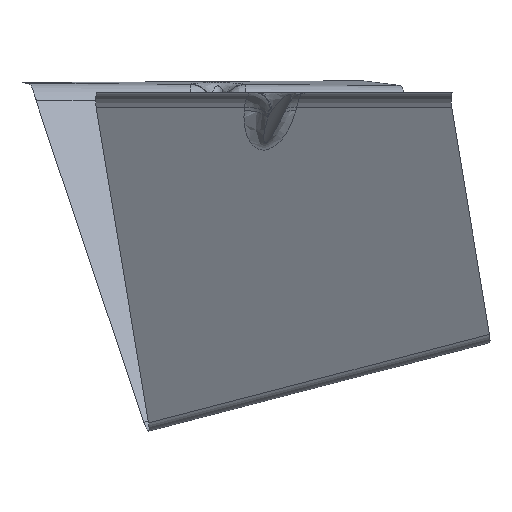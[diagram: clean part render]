
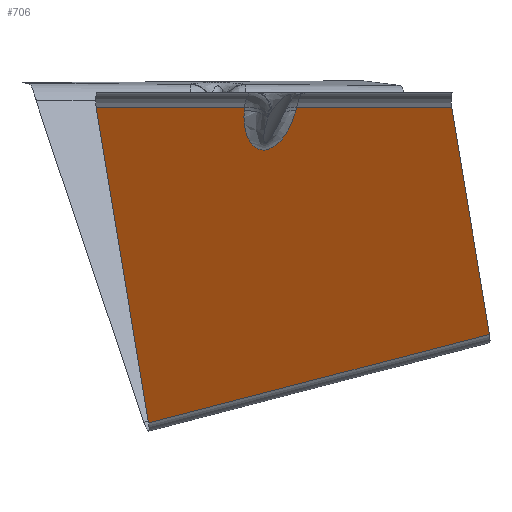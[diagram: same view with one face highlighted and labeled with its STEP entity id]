
A CAD part, left-side view. The second image highlights one B-rep face of the part: STEP entity #706.
In plain terms, the highlighted planar face has unit normal (-0.83, -0.249, -0.5).
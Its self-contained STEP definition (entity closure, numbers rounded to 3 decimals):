
#251=CARTESIAN_POINT('Vertex',(-100.162,8.569,-0.65)) ;
#274=CARTESIAN_POINT('Line Origine',(-79.158,11.037,-36.723)) ;
#278=CARTESIAN_POINT('Vertex',(-99.608,8.635,-1.602)) ;
#591=CARTESIAN_POINT('Control Point',(-95.25,-5.892,-1.602)) ;
#592=CARTESIAN_POINT('Control Point',(-95.022,-5.777,-2.036)) ;
#593=CARTESIAN_POINT('Control Point',(-94.798,-5.653,-2.47)) ;
#594=CARTESIAN_POINT('Control Point',(-94.577,-5.518,-2.904)) ;
#595=CARTESIAN_POINT('Control Point',(-93.952,-5.098,-4.15)) ;
#596=CARTESIAN_POINT('Control Point',(-93.359,-4.586,-5.388)) ;
#597=CARTESIAN_POINT('Control Point',(-92.99,-4.21,-6.187)) ;
#598=CARTESIAN_POINT('Control Point',(-92.489,-3.605,-7.32)) ;
#599=CARTESIAN_POINT('Control Point',(-92.042,-2.878,-8.423)) ;
#600=CARTESIAN_POINT('Control Point',(-91.914,-2.648,-8.751)) ;
#601=CARTESIAN_POINT('Control Point',(-91.688,-2.201,-9.347)) ;
#602=CARTESIAN_POINT('Control Point',(-91.488,-1.703,-9.927)) ;
#603=CARTESIAN_POINT('Control Point',(-91.403,-1.463,-10.189)) ;
#604=CARTESIAN_POINT('Control Point',(-91.21,-0.84,-10.819)) ;
#605=CARTESIAN_POINT('Control Point',(-91.071,-0.126,-11.404)) ;
#606=CARTESIAN_POINT('Control Point',(-91.013,0.339,-11.731)) ;
#607=CARTESIAN_POINT('Control Point',(-90.981,1.066,-12.147)) ;
#608=CARTESIAN_POINT('Control Point',(-91.056,1.888,-12.431)) ;
#609=CARTESIAN_POINT('Control Point',(-91.09,2.14,-12.501)) ;
#610=CARTESIAN_POINT('Control Point',(-91.172,2.606,-12.596)) ;
#611=CARTESIAN_POINT('Control Point',(-91.294,3.078,-12.629)) ;
#612=CARTESIAN_POINT('Control Point',(-91.356,3.287,-12.63)) ;
#613=CARTESIAN_POINT('Control Point',(-91.541,3.837,-12.596)) ;
#614=CARTESIAN_POINT('Control Point',(-91.77,4.35,-12.473)) ;
#615=CARTESIAN_POINT('Control Point',(-91.924,4.649,-12.365)) ;
#616=CARTESIAN_POINT('Control Point',(-92.371,5.413,-12.004)) ;
#617=CARTESIAN_POINT('Control Point',(-92.848,6.014,-11.512)) ;
#618=CARTESIAN_POINT('Control Point',(-93.154,6.345,-11.168)) ;
#619=CARTESIAN_POINT('Control Point',(-93.67,6.833,-10.556)) ;
#620=CARTESIAN_POINT('Control Point',(-94.18,7.222,-9.904)) ;
#621=CARTESIAN_POINT('Control Point',(-94.387,7.367,-9.632)) ;
#622=CARTESIAN_POINT('Control Point',(-94.85,7.664,-9.011)) ;
#623=CARTESIAN_POINT('Control Point',(-95.306,7.903,-8.374)) ;
#624=CARTESIAN_POINT('Control Point',(-95.558,8.02,-8.015)) ;
#625=CARTESIAN_POINT('Control Point',(-96.47,8.4,-6.69)) ;
#626=CARTESIAN_POINT('Control Point',(-97.351,8.607,-5.331)) ;
#627=CARTESIAN_POINT('Control Point',(-97.975,8.689,-4.338)) ;
#628=CARTESIAN_POINT('Control Point',(-98.674,8.712,-3.19)) ;
#629=CARTESIAN_POINT('Control Point',(-99.353,8.661,-2.037)) ;
#630=CARTESIAN_POINT('Control Point',(-99.438,8.653,-1.892)) ;
#631=CARTESIAN_POINT('Control Point',(-99.523,8.645,-1.747)) ;
#632=CARTESIAN_POINT('Control Point',(-99.608,8.635,-1.602)) ;
#633=CARTESIAN_POINT('Vertex',(-95.25,-5.892,-1.602)) ;
#651=CARTESIAN_POINT('Axis2P3D Location',(-44.33,-13.299,-82.391)) ;
#656=CARTESIAN_POINT('Line Origine',(-95.499,-6.017,-1.126)) ;
#660=CARTESIAN_POINT('Vertex',(-95.748,-6.143,-0.65)) ;
#663=CARTESIAN_POINT('Line Origine',(-106.416,29.416,-0.65)) ;
#667=CARTESIAN_POINT('Vertex',(-112.67,50.262,-0.65)) ;
#670=CARTESIAN_POINT('Line Origine',(-83.733,42.905,-44.995)) ;
#674=CARTESIAN_POINT('Vertex',(-54.796,35.548,-89.34)) ;
#677=CARTESIAN_POINT('Line Origine',(-47.915,-12.388,-76.898)) ;
#681=CARTESIAN_POINT('Vertex',(-41.034,-60.323,-64.455)) ;
#684=CARTESIAN_POINT('Line Origine',(-61.852,-55.031,-32.553)) ;
#688=CARTESIAN_POINT('Vertex',(-82.67,-49.738,-0.65)) ;
#691=CARTESIAN_POINT('Line Origine',(-89.209,-27.94,-0.65)) ;
#275=DIRECTION('Vector Direction',(0.502,0.059,-0.863)) ;
#652=DIRECTION('Axis2P3D Direction',(0.83,0.249,0.5)) ;
#653=DIRECTION('Axis2P3D XDirection',(0.541,-0.138,-0.83)) ;
#657=DIRECTION('Vector Direction',(-0.452,-0.227,0.863)) ;
#664=DIRECTION('Vector Direction',(0.287,-0.958,0.)) ;
#671=DIRECTION('Vector Direction',(0.541,-0.138,-0.83)) ;
#678=DIRECTION('Vector Direction',(0.138,-0.959,0.249)) ;
#685=DIRECTION('Vector Direction',(-0.541,0.138,0.83)) ;
#692=DIRECTION('Vector Direction',(0.287,-0.958,0.)) ;
#654=AXIS2_PLACEMENT_3D('Plane Axis2P3D',#651,#652,#653) ;
#697=ORIENTED_EDGE('',*,*,#662,.T.) ;
#698=ORIENTED_EDGE('',*,*,#635,.T.) ;
#699=ORIENTED_EDGE('',*,*,#280,.T.) ;
#700=ORIENTED_EDGE('',*,*,#669,.F.) ;
#701=ORIENTED_EDGE('',*,*,#676,.T.) ;
#702=ORIENTED_EDGE('',*,*,#683,.T.) ;
#703=ORIENTED_EDGE('',*,*,#690,.T.) ;
#704=ORIENTED_EDGE('',*,*,#695,.F.) ;
#276=VECTOR('Line Direction',#275,1.) ;
#658=VECTOR('Line Direction',#657,1.) ;
#665=VECTOR('Line Direction',#664,1.) ;
#672=VECTOR('Line Direction',#671,1.) ;
#679=VECTOR('Line Direction',#678,1.) ;
#686=VECTOR('Line Direction',#685,1.) ;
#693=VECTOR('Line Direction',#692,1.) ;
#706=ADVANCED_FACE('Extract.1',(#705),#655,.F.) ;
#590=B_SPLINE_CURVE_WITH_KNOTS('',5,(#591,#592,#593,#594,#595,#596,#597,#598,#599,#600,#601,#602,#603,#604,#605,#606,#607,#608,#609,#610,#611,#612,#613,#614,#615,#616,#617,#618,#619,#620,#621,#622,#623,#624,#625,#626,#627,#628,#629,#630,#631,#632),.UNSPECIFIED.,.F.,.U.,(6,3,3,3,3,3,3,3,3,3,3,3,3,6),(27.001,30.348,36.634,39.309,41.581,44.886,46.281,47.405,49.278,52.62,54.945,57.85,65.61,66.727),.UNSPECIFIED.) ;
#280=EDGE_CURVE('',#279,#252,#277,.F.) ;
#635=EDGE_CURVE('',#634,#279,#590,.T.) ;
#662=EDGE_CURVE('',#661,#634,#659,.F.) ;
#669=EDGE_CURVE('',#668,#252,#666,.T.) ;
#676=EDGE_CURVE('',#668,#675,#673,.T.) ;
#683=EDGE_CURVE('',#675,#682,#680,.T.) ;
#690=EDGE_CURVE('',#682,#689,#687,.T.) ;
#695=EDGE_CURVE('',#661,#689,#694,.T.) ;
#696=EDGE_LOOP('',(#697,#698,#699,#700,#701,#702,#703,#704)) ;
#705=FACE_OUTER_BOUND('',#696,.T.) ;
#277=LINE('Line',#274,#276) ;
#659=LINE('Line',#656,#658) ;
#666=LINE('Line',#663,#665) ;
#673=LINE('Line',#670,#672) ;
#680=LINE('Line',#677,#679) ;
#687=LINE('Line',#684,#686) ;
#694=LINE('Line',#691,#693) ;
#655=PLANE('',#654) ;
#252=VERTEX_POINT('',#251) ;
#279=VERTEX_POINT('',#278) ;
#634=VERTEX_POINT('',#633) ;
#661=VERTEX_POINT('',#660) ;
#668=VERTEX_POINT('',#667) ;
#675=VERTEX_POINT('',#674) ;
#682=VERTEX_POINT('',#681) ;
#689=VERTEX_POINT('',#688) ;
